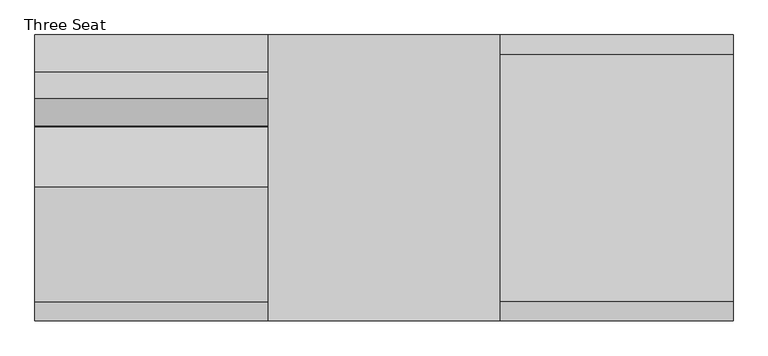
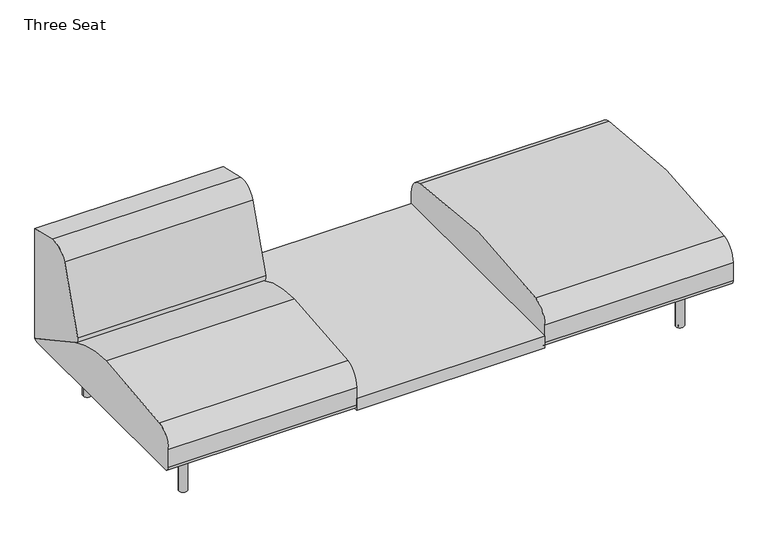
"""IFC4 building model written with IfcOpenShell, lengths in millimetres: furniture geometry, Coalesse_AM_Seating_LoungeChair_Sistema_LegBase_ThreeSeat : Three Seat."""

from ifc_helpers import new_model, si_unit, point, frame, frame_2d, origin, origin_with_axes, place, context, project, spatial, polyline, circle_curve, trimmed, segment, composite_curve, outline, extrude, source, transform, mapped, element, save


def three_seat_83599c98(model_context):
    return source(origin(), model_context, "Body", "SweptSolid", [
        extrude(outline(composite_curve([segment(polyline([(459.4795619, 673.6041325), (459.4795619, 228.1929806)]), True, "CONTINUOUS"), segment(trimmed(circle_curve(frame_2d((191.495971, 228.1929806)), 267.983591), [point((459.4795619, 228.1929806))], [point((458.9860775, 211.937276))], False, "CARTESIAN"), True, "CONTINUOUS"), segment(polyline([(458.9860775, 211.937276), (177.4990556, 364.1028799)]), True, "CONTINUOUS"), segment(trimmed(circle_curve(frame_2d((189.5778307, 386.4470781)), 25.4), [point((177.4990556, 364.1028799))], [point((164.9600055, 392.7018911))], False, "CARTESIAN"), True, "CONTINUOUS"), segment(trimmed(circle_curve(frame_2d((1918.112812, -52.7331923)), 1808.8552115), [point((164.9600055, 392.7018911))], [point((254.1018253, 656.5090883))], False, "CARTESIAN"), True, "CONTINUOUS"), segment(trimmed(circle_curve(frame_2d((324.2001043, 626.6314831)), 76.2), [point((254.1018253, 656.5090883))], [point((341.3413746, 700.8784821))], False, "CARTESIAN"), True, "CONTINUOUS"), segment(polyline([(341.3413746, 700.8784821), (459.4795619, 673.6041325)]), True, "CONTINUOUS")], self_intersect=False)), frame((-374.8034773, 0.0, 0.0), z_axis=(1.0, 0.0, 0.0), x_axis=(0.0, 1.0, 0.0)), (0.0, 0.0, 1.0), 749.3),
        extrude(outline(composite_curve([segment(trimmed(circle_curve(frame_2d((-438.9184381, 226.822)), 22.352), [point((-438.9184381, 204.47))], [point((-461.2704381, 226.822))], False, "CARTESIAN"), True, "CONTINUOUS"), segment(polyline([(-461.2704381, 226.822), (-461.2704381, 301.4421993)]), True, "CONTINUOUS"), segment(trimmed(circle_curve(frame_2d((-385.0704381, 301.4421993)), 76.2), [point((-461.2704381, 301.4421993))], [point((-398.9277015, 376.3716077))], False, "CARTESIAN"), True, "CONTINUOUS"), segment(trimmed(circle_curve(frame_2d((2.2103559, -1792.6740646)), 2205.8265729), [point((-398.9277015, 376.3716077))], [point((-31.1968175, 412.8995185))], False, "CARTESIAN"), True, "CONTINUOUS"), segment(trimmed(circle_curve(frame_2d((-24.5128424, -28.3829182)), 441.333054), [point((-31.1968175, 412.8995185))], [point((184.5757008, 360.2774035))], False, "CARTESIAN"), True, "CONTINUOUS"), segment(polyline([(184.5757008, 360.2774035), (458.9860775, 211.937276)]), True, "CONTINUOUS"), segment(trimmed(circle_curve(frame_2d((442.3266309, 226.7871991)), 22.3171991), [point((458.9860775, 211.937276))], [point((442.3266309, 204.47))], False, "CARTESIAN"), True, "CONTINUOUS"), segment(polyline([(442.3266309, 204.47), (-438.9184381, 204.47)]), True, "CONTINUOUS")], self_intersect=False)), frame((-374.8034773, 0.0, 0.0), z_axis=(1.0, 0.0, 0.0), x_axis=(0.0, 1.0, 0.0)), (0.0, 0.0, 1.0), 749.3),
        extrude(outline(polyline([(1123.7965227, 459.4795619), (1123.7965227, -461.2704381), (374.4965227, -461.2704381), (374.4965227, 459.4795619), (1123.7965227, 459.4795619)])), frame((0.0, 0.0, 204.47), z_axis=(0.0, 0.0, 1.0), x_axis=(1.0, 0.0, 0.0)), (0.0, 0.0, 1.0), 51.0294654),
        extrude(outline(composite_curve([segment(trimmed(circle_curve(frame_2d((-438.9184381, 226.822)), 22.352), [point((-438.9184381, 204.47))], [point((-461.2704381, 226.822))], False, "CARTESIAN"), True, "CONTINUOUS"), segment(polyline([(-461.2704381, 226.822), (-461.2704381, 301.4421993)]), True, "CONTINUOUS"), segment(trimmed(circle_curve(frame_2d((-385.0704381, 301.4421993)), 76.2), [point((-461.2704381, 301.4421993))], [point((-398.9279534, 376.3715612))], False, "CARTESIAN"), True, "CONTINUOUS"), segment(trimmed(circle_curve(frame_2d((-0.3717831, -1778.6727457)), 2191.5891461), [point((-398.9279534, 376.3715612))], [point((397.0993513, 376.5719464))], False, "CARTESIAN"), True, "CONTINUOUS"), segment(trimmed(circle_curve(frame_2d((383.2795619, 301.6356173)), 76.2), [point((397.0993513, 376.5719464))], [point((459.4795619, 301.6356173))], False, "CARTESIAN"), True, "CONTINUOUS"), segment(polyline([(459.4795619, 301.6356173), (459.4795619, 226.7871991)]), True, "CONTINUOUS"), segment(trimmed(circle_curve(frame_2d((437.1623628, 226.7871991)), 22.3171991), [point((459.4795619, 226.7871991))], [point((437.1623628, 204.47))], False, "CARTESIAN"), True, "CONTINUOUS"), segment(polyline([(437.1623628, 204.47), (-438.9184381, 204.47)]), True, "CONTINUOUS")], self_intersect=False)), frame((1123.7965227, 0.0, 0.0), z_axis=(1.0, 0.0, 0.0), x_axis=(0.0, 1.0, 0.0)), (0.0, 0.0, 1.0), 749.3),
        extrude(outline(composite_curve([segment(trimmed(circle_curve(frame_2d((1738.4765227, 335.9943389)), 6.096), [point((1744.5725227, 335.9943389))], [point((1732.3805227, 335.9943389))], False, "CARTESIAN"), True, "CONTINUOUS"), segment(trimmed(circle_curve(frame_2d((1738.4765227, 335.9943389)), 6.096), [point((1732.3805227, 335.9943389))], [point((1744.5725227, 335.9943389))], False, "CARTESIAN"), True, "CONTINUOUS")], self_intersect=False)), origin_with_axes(), (0.0, 0.0, 1.0), 4.3662291),
        extrude(outline(composite_curve([segment(trimmed(circle_curve(frame_2d((1738.4765227, -327.2630889)), 6.096), [point((1744.5725227, -327.2630889))], [point((1732.3805227, -327.2630889))], False, "CARTESIAN"), True, "CONTINUOUS"), segment(trimmed(circle_curve(frame_2d((1738.4765227, -327.2630889)), 6.096), [point((1732.3805227, -327.2630889))], [point((1744.5725227, -327.2630889))], False, "CARTESIAN"), True, "CONTINUOUS")], self_intersect=False)), origin_with_axes(), (0.0, 0.0, 1.0), 4.3662291),
        extrude(outline(composite_curve([segment(polyline([(157.0399209, 1751.056375), (201.7356243, 1751.056375)]), True, "CONTINUOUS"), segment(trimmed(circle_curve(frame_2d((201.7356243, 1748.008375)), 3.048), [point((201.7356243, 1751.056375))], [point((204.7836243, 1748.008375))], False, "CARTESIAN"), True, "CONTINUOUS"), segment(polyline([(204.7836243, 1748.008375), (204.7836243, 1728.666199)]), True, "CONTINUOUS"), segment(trimmed(circle_curve(frame_2d((201.7356243, 1728.666199)), 3.048), [point((204.7836243, 1728.666199))], [point((201.7356243, 1725.618199))], False, "CARTESIAN"), True, "CONTINUOUS"), segment(polyline([(201.7356243, 1725.618199), (157.1249936, 1725.618199)]), True, "CONTINUOUS"), segment(trimmed(circle_curve(frame_2d((157.1249936, 1728.7512718)), 3.1330728), [point((157.1249936, 1725.618199))], [point((153.9919209, 1728.7512718))], False, "CARTESIAN"), True, "CONTINUOUS"), segment(polyline([(153.9919209, 1728.7512718), (153.9919209, 1748.008375)]), True, "CONTINUOUS"), segment(trimmed(circle_curve(frame_2d((157.0399209, 1748.008375)), 3.048), [point((153.9919209, 1748.008375))], [point((157.0399209, 1751.056375))], False, "CARTESIAN"), True, "CONTINUOUS")], self_intersect=False)), frame((0.0, 222.3519802, 0.0), z_axis=(0.0, 1.0, 0.0), x_axis=(0.0, 0.0, 1.0)), (0.0, 0.0, 1.0), 92.6273161),
        extrude(outline(composite_curve([segment(polyline([(157.0399209, 1751.056375), (201.7356243, 1751.056375)]), True, "CONTINUOUS"), segment(trimmed(circle_curve(frame_2d((201.7356243, 1748.008375)), 3.048), [point((201.7356243, 1751.056375))], [point((204.7836243, 1748.008375))], False, "CARTESIAN"), True, "CONTINUOUS"), segment(polyline([(204.7836243, 1748.008375), (204.7836243, 1728.666199)]), True, "CONTINUOUS"), segment(trimmed(circle_curve(frame_2d((201.7356243, 1728.666199)), 3.048), [point((204.7836243, 1728.666199))], [point((201.7356243, 1725.618199))], False, "CARTESIAN"), True, "CONTINUOUS"), segment(polyline([(201.7356243, 1725.618199), (157.1249936, 1725.618199)]), True, "CONTINUOUS"), segment(trimmed(circle_curve(frame_2d((157.1249936, 1728.7512718)), 3.1330728), [point((157.1249936, 1725.618199))], [point((153.9919209, 1728.7512718))], False, "CARTESIAN"), True, "CONTINUOUS"), segment(polyline([(153.9919209, 1728.7512718), (153.9919209, 1748.008375)]), True, "CONTINUOUS"), segment(trimmed(circle_curve(frame_2d((157.0399209, 1748.008375)), 3.048), [point((153.9919209, 1748.008375))], [point((157.0399209, 1751.056375))], False, "CARTESIAN"), True, "CONTINUOUS")], self_intersect=False)), frame((0.0, -314.9792963, 0.0), z_axis=(0.0, 1.0, 0.0), x_axis=(0.0, 0.0, 1.0)), (0.0, 0.0, 1.0), 92.6273161),
        extrude(outline(composite_curve([segment(trimmed(circle_curve(frame_2d((176.3356606, 1715.8259944)), 3.048), [point((179.3836606, 1715.8259944))], [point((176.3356606, 1712.7779944))], False, "CARTESIAN"), True, "CONTINUOUS"), segment(polyline([(176.3356606, 1712.7779944), (157.0399209, 1712.7779944)]), True, "CONTINUOUS"), segment(trimmed(circle_curve(frame_2d((157.0399209, 1715.8259944)), 3.048), [point((157.0399209, 1712.7779944))], [point((153.9919209, 1715.8259944))], False, "CARTESIAN"), True, "CONTINUOUS"), segment(polyline([(153.9919209, 1715.8259944), (153.9919209, 1760.5135501)]), True, "CONTINUOUS"), segment(trimmed(circle_curve(frame_2d((157.056462, 1760.5135501)), 3.0645412), [point((153.9919209, 1760.5135501))], [point((157.056462, 1763.5780913))], False, "CARTESIAN"), True, "CONTINUOUS"), segment(polyline([(157.056462, 1763.5780913), (176.3356606, 1763.5780913)]), True, "CONTINUOUS"), segment(trimmed(circle_curve(frame_2d((176.3356606, 1760.5300913)), 3.048), [point((176.3356606, 1763.5780913))], [point((179.3836606, 1760.5300913))], False, "CARTESIAN"), True, "CONTINUOUS"), segment(polyline([(179.3836606, 1760.5300913), (179.3836606, 1715.8259944)]), True, "CONTINUOUS")], self_intersect=False)), frame((0.0, -222.3519802, 0.0), z_axis=(0.0, 1.0, 0.0), x_axis=(0.0, 0.0, 1.0)), (0.0, 0.0, 1.0), 444.7039604),
        extrude(outline(composite_curve([segment(trimmed(circle_curve(frame_2d((1738.4765227, 332.3095741)), 16.51), [point((1754.9865227, 332.3095741))], [point((1721.9665227, 332.3095741))], False, "CARTESIAN"), True, "CONTINUOUS"), segment(trimmed(circle_curve(frame_2d((1738.4765227, 332.3095741)), 16.51), [point((1721.9665227, 332.3095741))], [point((1754.9865227, 332.3095741))], False, "CARTESIAN"), True, "CONTINUOUS")], self_intersect=False)), frame((0.0, 0.0, 4.3662291), z_axis=(0.0, 0.0, 1.0), x_axis=(1.0, 0.0, 0.0)), (0.0, 0.0, 1.0), 200.1037709),
        extrude(outline(composite_curve([segment(trimmed(circle_curve(frame_2d((1738.0796477, -327.5470741)), 16.51), [point((1754.5896477, -327.5470741))], [point((1721.5696477, -327.5470741))], False, "CARTESIAN"), True, "CONTINUOUS"), segment(trimmed(circle_curve(frame_2d((1738.0796477, -327.5470741)), 16.51), [point((1721.5696477, -327.5470741))], [point((1754.5896477, -327.5470741))], False, "CARTESIAN"), True, "CONTINUOUS")], self_intersect=False)), frame((0.0, 0.0, 4.3662291), z_axis=(0.0, 0.0, 1.0), x_axis=(1.0, 0.0, 0.0)), (0.0, 0.0, 1.0), 200.1037709),
        extrude(outline(composite_curve([segment(trimmed(circle_curve(frame_2d((-240.1834773, 335.9943389)), 6.096), [point((-246.2794773, 335.9943389))], [point((-234.0874773, 335.9943389))], False, "CARTESIAN"), True, "CONTINUOUS"), segment(trimmed(circle_curve(frame_2d((-240.1834773, 335.9943389)), 6.096), [point((-234.0874773, 335.9943389))], [point((-246.2794773, 335.9943389))], False, "CARTESIAN"), True, "CONTINUOUS")], self_intersect=False)), origin_with_axes(), (0.0, 0.0, 1.0), 4.3662291),
        extrude(outline(composite_curve([segment(trimmed(circle_curve(frame_2d((-240.1834773, -327.2630889)), 6.096), [point((-246.2794773, -327.2630889))], [point((-234.0874773, -327.2630889))], False, "CARTESIAN"), True, "CONTINUOUS"), segment(trimmed(circle_curve(frame_2d((-240.1834773, -327.2630889)), 6.096), [point((-234.0874773, -327.2630889))], [point((-246.2794773, -327.2630889))], False, "CARTESIAN"), True, "CONTINUOUS")], self_intersect=False)), origin_with_axes(), (0.0, 0.0, 1.0), 4.3662291),
        extrude(outline(composite_curve([segment(trimmed(circle_curve(frame_2d((157.0399209, -249.7153296)), 3.048), [point((157.0399209, -252.7633296))], [point((153.9919209, -249.7153296))], False, "CARTESIAN"), True, "CONTINUOUS"), segment(polyline([(153.9919209, -249.7153296), (153.9919209, -230.4582264)]), True, "CONTINUOUS"), segment(trimmed(circle_curve(frame_2d((157.1249936, -230.4582264)), 3.1330728), [point((153.9919209, -230.4582264))], [point((157.1249936, -227.3251537))], False, "CARTESIAN"), True, "CONTINUOUS"), segment(polyline([(157.1249936, -227.3251537), (201.7356243, -227.3251537)]), True, "CONTINUOUS"), segment(trimmed(circle_curve(frame_2d((201.7356243, -230.3731537)), 3.048), [point((201.7356243, -227.3251537))], [point((204.7836243, -230.3731537))], False, "CARTESIAN"), True, "CONTINUOUS"), segment(polyline([(204.7836243, -230.3731537), (204.7836243, -249.7153296)]), True, "CONTINUOUS"), segment(trimmed(circle_curve(frame_2d((201.7356243, -249.7153296)), 3.048), [point((204.7836243, -249.7153296))], [point((201.7356243, -252.7633296))], False, "CARTESIAN"), True, "CONTINUOUS"), segment(polyline([(201.7356243, -252.7633296), (157.0399209, -252.7633296)]), True, "CONTINUOUS")], self_intersect=False)), frame((0.0, 222.3519802, 0.0), z_axis=(0.0, 1.0, 0.0), x_axis=(0.0, 0.0, 1.0)), (0.0, 0.0, 1.0), 92.6273161),
        extrude(outline(composite_curve([segment(trimmed(circle_curve(frame_2d((157.0399209, -249.7153296)), 3.048), [point((157.0399209, -252.7633296))], [point((153.9919209, -249.7153296))], False, "CARTESIAN"), True, "CONTINUOUS"), segment(polyline([(153.9919209, -249.7153296), (153.9919209, -230.4582264)]), True, "CONTINUOUS"), segment(trimmed(circle_curve(frame_2d((157.1249936, -230.4582264)), 3.1330728), [point((153.9919209, -230.4582264))], [point((157.1249936, -227.3251537))], False, "CARTESIAN"), True, "CONTINUOUS"), segment(polyline([(157.1249936, -227.3251537), (201.7356243, -227.3251537)]), True, "CONTINUOUS"), segment(trimmed(circle_curve(frame_2d((201.7356243, -230.3731537)), 3.048), [point((201.7356243, -227.3251537))], [point((204.7836243, -230.3731537))], False, "CARTESIAN"), True, "CONTINUOUS"), segment(polyline([(204.7836243, -230.3731537), (204.7836243, -249.7153296)]), True, "CONTINUOUS"), segment(trimmed(circle_curve(frame_2d((201.7356243, -249.7153296)), 3.048), [point((204.7836243, -249.7153296))], [point((201.7356243, -252.7633296))], False, "CARTESIAN"), True, "CONTINUOUS"), segment(polyline([(201.7356243, -252.7633296), (157.0399209, -252.7633296)]), True, "CONTINUOUS")], self_intersect=False)), frame((0.0, -314.9792963, 0.0), z_axis=(0.0, 1.0, 0.0), x_axis=(0.0, 0.0, 1.0)), (0.0, 0.0, 1.0), 92.6273161),
        extrude(outline(composite_curve([segment(polyline([(179.3836606, -217.532949), (179.3836606, -262.2370459)]), True, "CONTINUOUS"), segment(trimmed(circle_curve(frame_2d((176.3356606, -262.2370459)), 3.048), [point((179.3836606, -262.2370459))], [point((176.3356606, -265.2850459))], False, "CARTESIAN"), True, "CONTINUOUS"), segment(polyline([(176.3356606, -265.2850459), (157.056462, -265.2850459)]), True, "CONTINUOUS"), segment(trimmed(circle_curve(frame_2d((157.056462, -262.2205047)), 3.0645412), [point((157.056462, -265.2850459))], [point((153.9919209, -262.2205047))], False, "CARTESIAN"), True, "CONTINUOUS"), segment(polyline([(153.9919209, -262.2205047), (153.9919209, -217.532949)]), True, "CONTINUOUS"), segment(trimmed(circle_curve(frame_2d((157.0399209, -217.532949)), 3.048), [point((153.9919209, -217.532949))], [point((157.0399209, -214.484949))], False, "CARTESIAN"), True, "CONTINUOUS"), segment(polyline([(157.0399209, -214.484949), (176.3356606, -214.484949)]), True, "CONTINUOUS"), segment(trimmed(circle_curve(frame_2d((176.3356606, -217.532949)), 3.048), [point((176.3356606, -214.484949))], [point((179.3836606, -217.532949))], False, "CARTESIAN"), True, "CONTINUOUS")], self_intersect=False)), frame((0.0, -222.3519802, 0.0), z_axis=(0.0, 1.0, 0.0), x_axis=(0.0, 0.0, 1.0)), (0.0, 0.0, 1.0), 444.7039604),
        extrude(outline(composite_curve([segment(trimmed(circle_curve(frame_2d((-240.1834773, 332.3095741)), 16.51), [point((-256.6934773, 332.3095741))], [point((-223.6734773, 332.3095741))], False, "CARTESIAN"), True, "CONTINUOUS"), segment(trimmed(circle_curve(frame_2d((-240.1834773, 332.3095741)), 16.51), [point((-223.6734773, 332.3095741))], [point((-256.6934773, 332.3095741))], False, "CARTESIAN"), True, "CONTINUOUS")], self_intersect=False)), frame((0.0, 0.0, 4.3662291), z_axis=(0.0, 0.0, 1.0), x_axis=(1.0, 0.0, 0.0)), (0.0, 0.0, 1.0), 200.1037709),
        extrude(outline(composite_curve([segment(trimmed(circle_curve(frame_2d((-239.7866023, -327.5470741)), 16.51), [point((-256.2966023, -327.5470741))], [point((-223.2766023, -327.5470741))], False, "CARTESIAN"), True, "CONTINUOUS"), segment(trimmed(circle_curve(frame_2d((-239.7866023, -327.5470741)), 16.51), [point((-223.2766023, -327.5470741))], [point((-256.2966023, -327.5470741))], False, "CARTESIAN"), True, "CONTINUOUS")], self_intersect=False)), frame((0.0, 0.0, 4.3662291), z_axis=(0.0, 0.0, 1.0), x_axis=(1.0, 0.0, 0.0)), (0.0, 0.0, 1.0), 200.1037709),
    ])


if __name__ == "__main__":
    model = new_model("IFC4")
    model_context = context("Model", 3, world=origin())
    ifc_project = project(units=[si_unit("LENGTHUNIT", "METRE", prefix="MILLI")], contexts=[model_context])
    site = spatial("IfcSite", under=ifc_project)
    building = spatial("IfcBuilding", under=site)
    placement = place(None, origin())
    three_seat_shape = three_seat_83599c98(model_context)
    element("IfcFurniture", 1, ObjectType="Coalesse_AM_Seating_LoungeChair_Sistema_LegBase_ThreeSeat : Three Seat", at=placement, inside=building, context=model_context, shape_type="MappedRepresentation", body=[
        mapped(three_seat_shape, transform((0.0, 0.0, 0.0), x_axis=(1.0, 0.0, 0.0), y_axis=(0.0, 1.0, 0.0), z_axis=(0.0, 0.0, 1.0))),
    ])
    save(model, "model.ifc")
